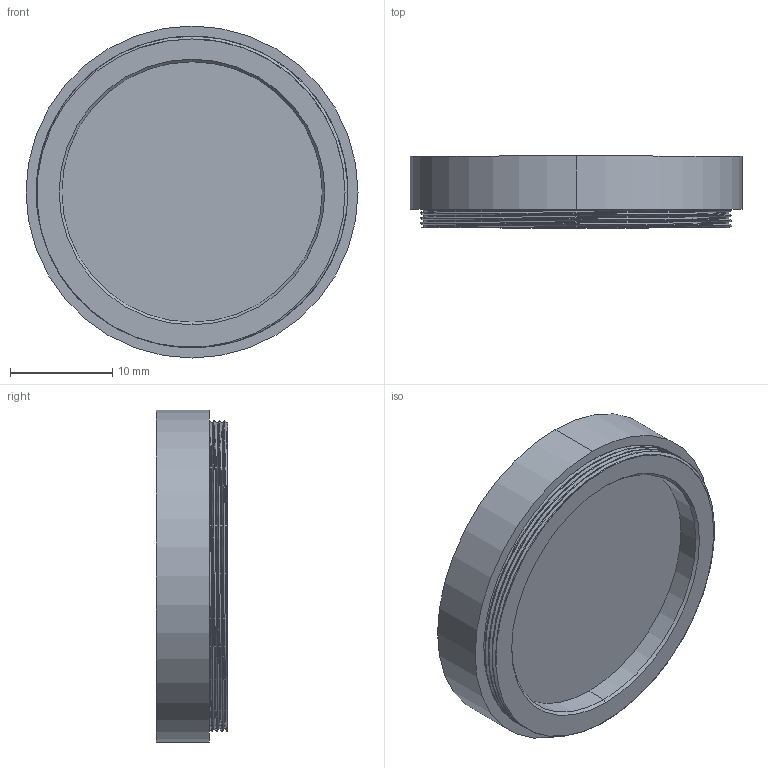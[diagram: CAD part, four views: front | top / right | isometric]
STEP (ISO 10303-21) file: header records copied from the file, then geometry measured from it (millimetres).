
FILE_DESCRIPTION (( 'STEP AP214' ), '1' );
FILE_NAME ('M30.5 x P0.5.STEP', '2023-01-19T08:17:48', ( '' ), ( '' ), 'SwSTEP 2.0', 'SolidWorks 2021', '' );
FILE_SCHEMA (( 'AUTOMOTIVE_DESIGN' ));
Length unit declared in the file: millimetre
Products named in the file (1): M30.5 x P0.5
Bounding box: 32.5 x 7 x 32.5 mm (x, y, z)
Volume: 1535.3 mm3; surface area: 3877.9 mm2
Topology: 3 solids, 3 shells, 50 faces, 121 edges, 80 vertices
Faces by surface type: cylinder 32, plane 10, bspline 6, cone 2
Entity records: 2844 total; most frequent: CARTESIAN_POINT 1749, ORIENTED_EDGE 242, DIRECTION 191, EDGE_CURVE 121, VERTEX_POINT 80, AXIS2_PLACEMENT_3D 79, EDGE_LOOP 57, FACE_OUTER_BOUND 50
